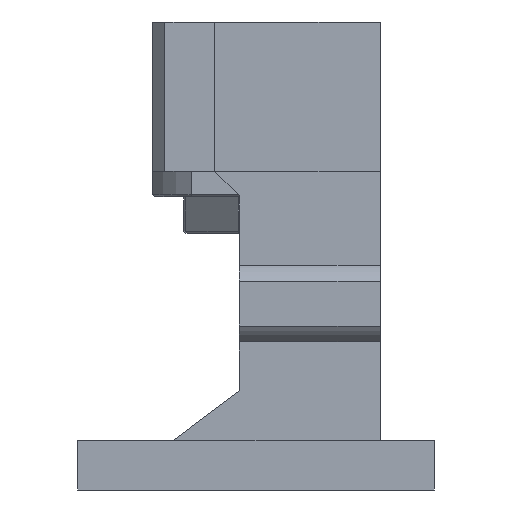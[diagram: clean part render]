
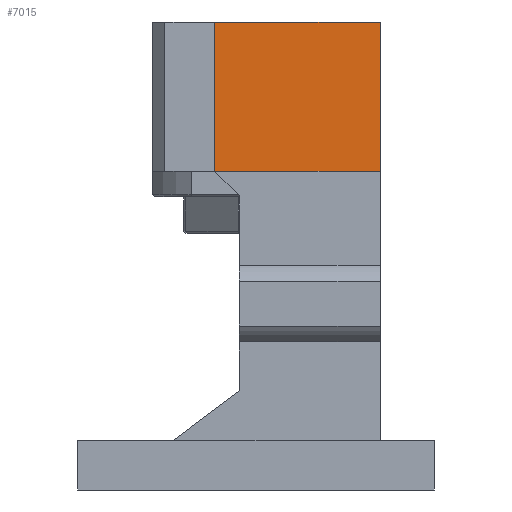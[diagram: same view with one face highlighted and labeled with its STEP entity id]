
A CAD part, left-side view. The second image highlights one B-rep face of the part: STEP entity #7015.
In plain terms, the highlighted planar face has unit normal (-1, 0, 0).
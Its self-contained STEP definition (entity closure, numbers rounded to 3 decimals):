
#292 = VECTOR ( 'NONE', #6494, 1000. ) ;
#975 = VECTOR ( 'NONE', #1398, 1000. ) ;
#1049 = ORIENTED_EDGE ( 'NONE', *, *, #1934, .T. ) ;
#1104 = PLANE ( 'NONE',  #3445 ) ;
#1350 = CARTESIAN_POINT ( 'NONE',  ( -44., -30., 6. ) ) ;
#1398 = DIRECTION ( 'NONE',  ( 0., 0., 1. ) ) ;
#1722 = CARTESIAN_POINT ( 'NONE',  ( -44., -30., -30. ) ) ;
#1934 = EDGE_CURVE ( 'NONE', #6763, #6261, #3905, .T. ) ;
#2378 = CARTESIAN_POINT ( 'NONE',  ( -44., 10., -30. ) ) ;
#2502 = LINE ( 'NONE', #6945, #3970 ) ;
#2548 = DIRECTION ( 'NONE',  ( 0., 0., 1. ) ) ;
#3115 = VERTEX_POINT ( 'NONE', #4976 ) ;
#3178 = EDGE_CURVE ( 'NONE', #6763, #3115, #2502, .T. ) ;
#3306 = VERTEX_POINT ( 'NONE', #1350 ) ;
#3445 = AXIS2_PLACEMENT_3D ( 'NONE', #2378, #6762, #2548 ) ;
#3905 = LINE ( 'NONE', #8054, #5510 ) ;
#3970 = VECTOR ( 'NONE', #7528, 1000. ) ;
#4045 = EDGE_CURVE ( 'NONE', #3115, #3306, #7005, .T. ) ;
#4115 = CARTESIAN_POINT ( 'NONE',  ( -44., -30., -30. ) ) ;
#4458 = DIRECTION ( 'NONE',  ( 0., -1., 0. ) ) ;
#4976 = CARTESIAN_POINT ( 'NONE',  ( -44., 10., 6. ) ) ;
#5322 = EDGE_CURVE ( 'NONE', #6261, #3306, #7264, .T. ) ;
#5325 = FACE_OUTER_BOUND ( 'NONE', #7400, .T. ) ;
#5510 = VECTOR ( 'NONE', #4458, 1000. ) ;
#5724 = ORIENTED_EDGE ( 'NONE', *, *, #4045, .F. ) ;
#5893 = CARTESIAN_POINT ( 'NONE',  ( -44., 10., -30. ) ) ;
#6261 = VERTEX_POINT ( 'NONE', #4115 ) ;
#6494 = DIRECTION ( 'NONE',  ( 0., -1., 0. ) ) ;
#6762 = DIRECTION ( 'NONE',  ( -1., 0., 0. ) ) ;
#6763 = VERTEX_POINT ( 'NONE', #5893 ) ;
#6800 = ORIENTED_EDGE ( 'NONE', *, *, #3178, .F. ) ;
#6945 = CARTESIAN_POINT ( 'NONE',  ( -44., 10., -30. ) ) ;
#7005 = LINE ( 'NONE', #7775, #292 ) ;
#7015 = ADVANCED_FACE ( 'NONE', ( #5325 ), #1104, .T. ) ;
#7264 = LINE ( 'NONE', #1722, #975 ) ;
#7400 = EDGE_LOOP ( 'NONE', ( #7930, #5724, #6800, #1049 ) ) ;
#7528 = DIRECTION ( 'NONE',  ( 0., 0., 1. ) ) ;
#7775 = CARTESIAN_POINT ( 'NONE',  ( -44., 10., 6. ) ) ;
#7930 = ORIENTED_EDGE ( 'NONE', *, *, #5322, .T. ) ;
#8054 = CARTESIAN_POINT ( 'NONE',  ( -44., 10., -30. ) ) ;
